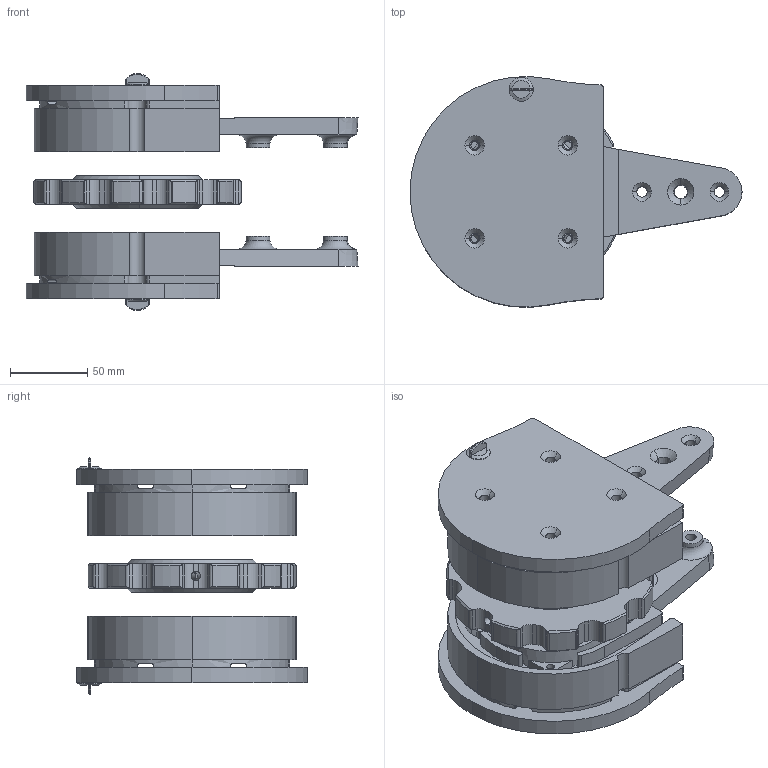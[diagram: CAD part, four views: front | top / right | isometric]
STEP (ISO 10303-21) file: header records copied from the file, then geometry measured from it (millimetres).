
FILE_DESCRIPTION (( 'STEP AP203' ), '1' );
FILE_NAME ('R3R.STEP', '2009-01-13T08:25:01', ( 'faber' ), ( '' ), 'SwSTEP 2.0', 'SolidWorks 2008', '' );
FILE_SCHEMA (( 'CONFIG_CONTROL_DESIGN' ));
Length unit declared in the file: millimetre
Products named in the file (1): R3R
Bounding box: 214.42 x 148.87 x 152.94 mm (x, y, z)
Surface area: 223591.6 mm2 (no closed solid volume)
Topology: 0 solids, 13 shells, 470 faces, 1463 edges, 994 vertices
Faces by surface type: cylinder 222, plane 144, cone 82, torus 14, bspline 8
Entity records: 18062 total; most frequent: CARTESIAN_POINT 4646, DIRECTION 2919, ORIENTED_EDGE 2676, EDGE_CURVE 1463, AXIS2_PLACEMENT_3D 1137, VERTEX_POINT 994, CIRCLE 674, VECTOR 645
